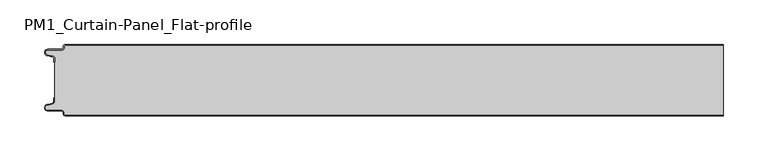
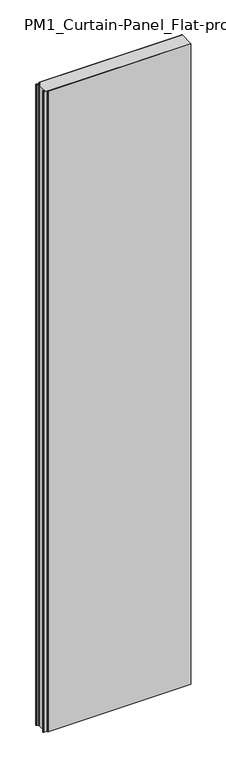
"""IFC4 building model written with IfcOpenShell, lengths in millimetres: plate geometry, PM1_Curtain-Panel_Flat-profile : ACH_PM1_Stone-wool-Panel_80M."""

from ifc_helpers import new_model, si_unit, point, frame_2d, origin, origin_with_axes, place, context, project, spatial, polyline, circle_curve, trimmed, segment, composite_curve, outline, extrude, source, transform, mapped, element, save


def pm1_curtain_panel_flat_profile_68c07352(model_context):
    return source(origin(), model_context, "Body", "SweptSolid", [
        extrude(outline(composite_curve([segment(trimmed(circle_curve(frame_2d((-362.4, -2.0)), 1.2), [point((-362.4, -0.8))], [point((-363.6, -2.0))], True, "CARTESIAN"), True, "CONTINUOUS"), segment(polyline([(-363.6, -2.0), (-363.6, -3.4)]), True, "CONTINUOUS"), segment(trimmed(circle_curve(frame_2d((-366.4, -3.4)), 2.8), [point((-363.6, -3.4))], [point((-366.4, -6.2))], False, "CARTESIAN"), True, "CONTINUOUS"), segment(polyline([(-366.4, -6.2), (-381.9, -6.2)]), True, "CONTINUOUS"), segment(trimmed(circle_curve(frame_2d((-381.9, -9.0)), 2.8), [point((-381.9, -6.2))], [point((-382.529863, -11.7282362))], True, "CARTESIAN"), True, "CONTINUOUS"), segment(polyline([(-382.529863, -11.7282362), (-376.370137, -13.150321)]), True, "CONTINUOUS"), segment(trimmed(circle_curve(frame_2d((-377.0, -15.878557)), 2.8), [point((-376.370137, -13.150321))], [point((-374.2, -15.878557))], False, "CARTESIAN"), True, "CONTINUOUS"), segment(polyline([(-374.2, -15.878557), (-374.2, -20.0), (-375.0, -20.0), (-375.0, -15.878557)]), True, "CONTINUOUS"), segment(trimmed(circle_curve(frame_2d((-377.0, -15.878557)), 2.0), [point((-375.0, -15.878557))], [point((-376.5500978, -13.9298169))], True, "CARTESIAN"), True, "CONTINUOUS"), segment(polyline([(-376.5500978, -13.9298169), (-382.7098239, -12.507732)]), True, "CONTINUOUS"), segment(trimmed(circle_curve(frame_2d((-381.9, -9.0)), 3.6), [point((-382.7098239, -12.507732))], [point((-381.9, -5.4))], False, "CARTESIAN"), True, "CONTINUOUS"), segment(polyline([(-381.9, -5.4), (-366.4, -5.4)]), True, "CONTINUOUS"), segment(trimmed(circle_curve(frame_2d((-366.4, -3.4)), 2.0), [point((-366.4, -5.4))], [point((-364.4, -3.4))], True, "CARTESIAN"), True, "CONTINUOUS"), segment(polyline([(-364.4, -3.4), (-364.4, -2.0)]), True, "CONTINUOUS"), segment(trimmed(circle_curve(frame_2d((-362.4, -2.0)), 2.0), [point((-364.4, -2.0))], [point((-362.4, 0.0))], False, "CARTESIAN"), True, "CONTINUOUS"), segment(polyline([(-362.4, 0.0), (375.0, 0.0), (375.0, -0.8), (-362.4, -0.8)]), True, "CONTINUOUS")], self_intersect=False)), origin_with_axes(), (0.0, 0.0, 1.0), 3500.0),
        extrude(outline(composite_curve([segment(polyline([(-374.2, -64.1214426), (-374.2, -15.8785573)]), True, "CONTINUOUS"), segment(trimmed(circle_curve(frame_2d((-377.0, -15.8785573)), 2.8), [point((-374.2, -15.8785573))], [point((-376.370137, -13.1503212))], True, "CARTESIAN"), True, "CONTINUOUS"), segment(polyline([(-376.370137, -13.1503212), (-382.5298631, -11.7282362)]), True, "CONTINUOUS"), segment(trimmed(circle_curve(frame_2d((-381.9, -9.0)), 2.8), [point((-382.5298631, -11.7282362))], [point((-381.9, -6.2))], False, "CARTESIAN"), True, "CONTINUOUS"), segment(polyline([(-381.9, -6.2), (-366.4000001, -6.2)]), True, "CONTINUOUS"), segment(trimmed(circle_curve(frame_2d((-366.4000001, -3.4)), 2.8), [point((-366.4000001, -6.2))], [point((-363.6000001, -3.4))], True, "CARTESIAN"), True, "CONTINUOUS"), segment(polyline([(-363.6000001, -3.4), (-363.6000001, -2.0)]), True, "CONTINUOUS"), segment(trimmed(circle_curve(frame_2d((-362.4000001, -2.0)), 1.2), [point((-363.6000001, -2.0))], [point((-362.4000001, -0.8))], False, "CARTESIAN"), True, "CONTINUOUS"), segment(polyline([(-362.4000001, -0.8), (375.0, -0.8), (375.0, -79.2), (-362.4000001, -79.2)]), True, "CONTINUOUS"), segment(trimmed(circle_curve(frame_2d((-362.4000001, -78.0)), 1.2), [point((-362.4000001, -79.2))], [point((-363.6000001, -78.0))], False, "CARTESIAN"), True, "CONTINUOUS"), segment(polyline([(-363.6000001, -78.0), (-363.6000001, -76.6)]), True, "CONTINUOUS"), segment(trimmed(circle_curve(frame_2d((-366.4000001, -76.6)), 2.8), [point((-363.6000001, -76.6))], [point((-366.4000001, -73.8))], True, "CARTESIAN"), True, "CONTINUOUS"), segment(polyline([(-366.4000001, -73.8), (-381.9, -73.8)]), True, "CONTINUOUS"), segment(trimmed(circle_curve(frame_2d((-381.9, -71.0)), 2.8), [point((-381.9, -73.8))], [point((-382.5298631, -68.2717638))], False, "CARTESIAN"), True, "CONTINUOUS"), segment(polyline([(-382.5298631, -68.2717638), (-376.370137, -66.8496788)]), True, "CONTINUOUS"), segment(trimmed(circle_curve(frame_2d((-377.0, -64.1214426)), 2.8), [point((-376.370137, -66.8496788))], [point((-374.2, -64.1214426))], True, "CARTESIAN"), True, "CONTINUOUS")], self_intersect=False)), origin_with_axes(), (0.0, 0.0, 1.0), 3500.0),
        extrude(outline(composite_curve([segment(trimmed(circle_curve(frame_2d((-362.4, -78.0)), 2.0), [point((-362.4, -80.0))], [point((-364.4, -78.0))], False, "CARTESIAN"), True, "CONTINUOUS"), segment(polyline([(-364.4, -78.0), (-364.4, -76.6)]), True, "CONTINUOUS"), segment(trimmed(circle_curve(frame_2d((-366.4, -76.6)), 2.0), [point((-364.4, -76.6))], [point((-366.4, -74.6))], True, "CARTESIAN"), True, "CONTINUOUS"), segment(polyline([(-366.4, -74.6), (-381.9, -74.6)]), True, "CONTINUOUS"), segment(trimmed(circle_curve(frame_2d((-381.9, -71.0)), 3.6), [point((-381.9, -74.6))], [point((-382.7098239, -67.4922678))], False, "CARTESIAN"), True, "CONTINUOUS"), segment(polyline([(-382.7098239, -67.4922678), (-376.5500979, -66.070183)]), True, "CONTINUOUS"), segment(trimmed(circle_curve(frame_2d((-377.0, -64.121443)), 2.0), [point((-376.5500979, -66.070183))], [point((-375.0, -64.121443))], True, "CARTESIAN"), True, "CONTINUOUS"), segment(polyline([(-375.0, -64.121443), (-375.0, -60.0), (-374.2, -60.0), (-374.2, -64.121443)]), True, "CONTINUOUS"), segment(trimmed(circle_curve(frame_2d((-377.0, -64.121443)), 2.8), [point((-374.2, -64.121443))], [point((-376.370137, -66.8496792))], False, "CARTESIAN"), True, "CONTINUOUS"), segment(polyline([(-376.370137, -66.8496792), (-382.529863, -68.271764)]), True, "CONTINUOUS"), segment(trimmed(circle_curve(frame_2d((-381.9, -71.0)), 2.8), [point((-382.529863, -68.271764))], [point((-381.9, -73.8))], True, "CARTESIAN"), True, "CONTINUOUS"), segment(polyline([(-381.9, -73.8), (-366.4, -73.8)]), True, "CONTINUOUS"), segment(trimmed(circle_curve(frame_2d((-366.4, -76.6)), 2.8), [point((-366.4, -73.8))], [point((-363.6, -76.6))], False, "CARTESIAN"), True, "CONTINUOUS"), segment(polyline([(-363.6, -76.6), (-363.6, -78.0)]), True, "CONTINUOUS"), segment(trimmed(circle_curve(frame_2d((-362.4, -78.0)), 1.2), [point((-363.6, -78.0))], [point((-362.4, -79.2))], True, "CARTESIAN"), True, "CONTINUOUS"), segment(polyline([(-362.4, -79.2), (375.0, -79.2), (375.0, -80.0), (-362.4, -80.0)]), True, "CONTINUOUS")], self_intersect=False)), origin_with_axes(), (0.0, 0.0, 1.0), 3500.0),
    ])


if __name__ == "__main__":
    model = new_model("IFC4")
    model_context = context("Model", 3, world=origin())
    ifc_project = project(units=[si_unit("LENGTHUNIT", "METRE", prefix="MILLI")], contexts=[model_context])
    site = spatial("IfcSite", under=ifc_project)
    building = spatial("IfcBuilding", under=site)
    placement = place(None, origin())
    pm1_curtain_panel_flat_profile_shape = pm1_curtain_panel_flat_profile_68c07352(model_context)
    element("IfcPlate", 1, ObjectType="PM1_Curtain-Panel_Flat-profile : ACH_PM1_Stone-wool-Panel_80M", at=placement, inside=building, context=model_context, shape_type="MappedRepresentation", body=[
        mapped(pm1_curtain_panel_flat_profile_shape, transform((0.0, 0.0, 0.0), x_axis=(1.0, 0.0, 0.0), y_axis=(0.0, 1.0, 0.0), z_axis=(0.0, 0.0, 1.0))),
    ])
    save(model, "model.ifc")
